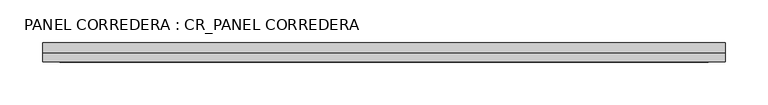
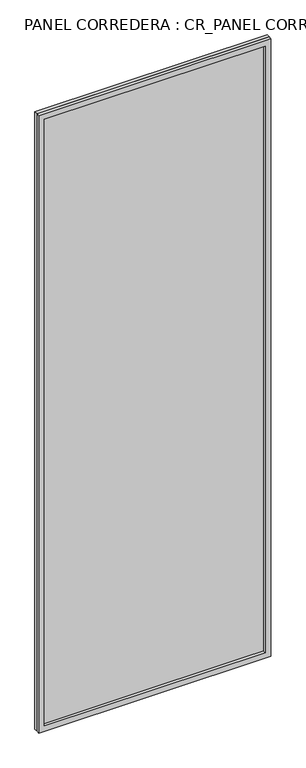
"""IFC4 building model written with IfcOpenShell, lengths in millimetres: plate geometry, PANEL CORREDERA : CR_PANEL CORREDERA."""

from ifc_helpers import new_model, si_unit, frame, origin, origin_with_axes, place, context, project, spatial, polyline, outline, extrude, source, transform, mapped, element, save


def panel_corredera_cr_panel_corredera_7198288a(model_context):
    return source(origin(), model_context, "Body", "SweptSolid", [
        extrude(outline(polyline([(2250.0, -325.0), (0.0, -325.0), (0.0, 475.0), (2250.0, 475.0), (2250.0, -325.0)]), holes=[polyline([(2230.0, -305.0), (2230.0, 455.0), (20.0, 455.0), (20.0, -305.0), (2230.0, -305.0)])]), frame((0.0, 20.0, 0.0), z_axis=(0.0, 1.0, 0.0), x_axis=(0.0, 0.0, 1.0)), (0.0, 0.0, 1.0), 10.0),
        extrude(outline(polyline([(475.0, 30.0), (-325.0, 30.0), (-325.0, 42.5), (475.0, 42.5), (475.0, 30.0)])), origin_with_axes(), (0.0, 0.0, 1.0), 2250.0),
    ])


if __name__ == "__main__":
    model = new_model("IFC4")
    model_context = context("Model", 3, world=origin())
    ifc_project = project(units=[si_unit("LENGTHUNIT", "METRE", prefix="MILLI")], contexts=[model_context])
    site = spatial("IfcSite", under=ifc_project)
    building = spatial("IfcBuilding", under=site)
    placement = place(None, origin())
    panel_corredera_cr_panel_corredera_shape = panel_corredera_cr_panel_corredera_7198288a(model_context)
    element("IfcPlate", 1, ObjectType="PANEL CORREDERA : CR_PANEL CORREDERA", at=placement, inside=building, context=model_context, shape_type="MappedRepresentation", body=[
        mapped(panel_corredera_cr_panel_corredera_shape, transform((0.0, 0.0, 0.0), x_axis=(1.0, 0.0, 0.0), y_axis=(0.0, 1.0, 0.0), z_axis=(0.0, 0.0, 1.0))),
    ])
    save(model, "model.ifc")
